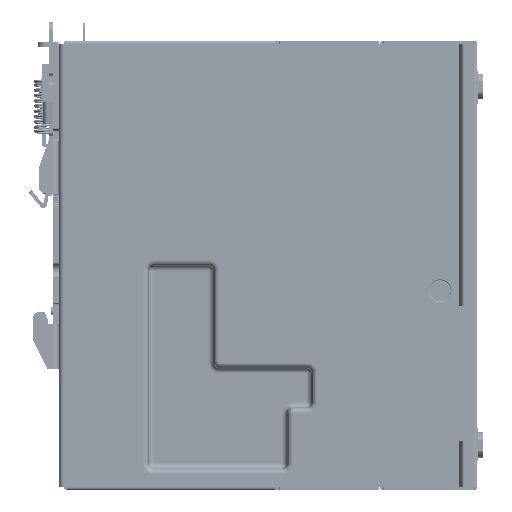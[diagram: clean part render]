
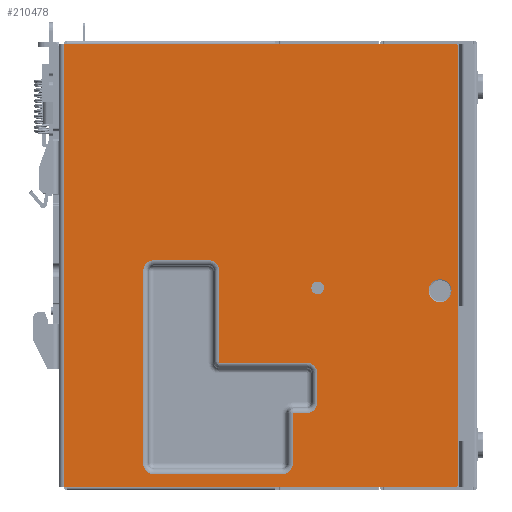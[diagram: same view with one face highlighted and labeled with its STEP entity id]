
A CAD part, front view. The second image highlights one B-rep face of the part: STEP entity #210478.
In plain terms, the highlighted planar face has unit normal (0, -1, 0).
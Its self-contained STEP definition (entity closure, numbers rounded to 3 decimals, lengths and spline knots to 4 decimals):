
#41224=DIRECTION('',(0.,0.,-1.));
#41225=VECTOR('',#41224,4.8031);
#41226=CARTESIAN_POINT('',(0.,0.,0.));
#41227=LINE('',#41226,#41225);
#41613=DIRECTION('',(1.,0.,0.));
#41614=VECTOR('',#41613,4.2323);
#41615=CARTESIAN_POINT('',(0.,0.,0.));
#41616=LINE('',#41615,#41614);
#41617=CARTESIAN_POINT('',(4.2323,0.,-0.0394));
#41618=DIRECTION('',(0.,1.,0.));
#41619=DIRECTION('',(0.,0.,1.));
#41620=AXIS2_PLACEMENT_3D('',#41617,#41618,#41619);
#41622=CARTESIAN_POINT('',(4.2323,0.,-4.7638));
#41623=DIRECTION('',(0.,1.,0.));
#41624=DIRECTION('',(1.,0.,0.));
#41625=AXIS2_PLACEMENT_3D('',#41622,#41623,#41624);
#41627=DIRECTION('',(-1.,0.,0.));
#41628=VECTOR('',#41627,4.2323);
#41629=CARTESIAN_POINT('',(4.2323,0.,-4.8031));
#41630=LINE('',#41629,#41628);
#41631=CARTESIAN_POINT('',(2.748,0.,-2.6457));
#41632=DIRECTION('',(0.,-1.,0.));
#41633=DIRECTION('',(1.,0.,0.));
#41634=AXIS2_PLACEMENT_3D('',#41631,#41632,#41633);
#41636=CARTESIAN_POINT('',(2.748,0.,-2.6457));
#41637=DIRECTION('',(0.,-1.,0.));
#41638=DIRECTION('',(-1.,0.,0.));
#41639=AXIS2_PLACEMENT_3D('',#41636,#41637,#41638);
#41641=CARTESIAN_POINT('',(2.3618,0.,-4.5469));
#41642=DIRECTION('',(0.,-1.,0.));
#41643=DIRECTION('',(0.,0.,-1.));
#41644=AXIS2_PLACEMENT_3D('',#41641,#41642,#41643);
#41646=CARTESIAN_POINT('',(2.4807,0.,
-4.0043));
#41647=DIRECTION('',(0.,1.,0.));
#41648=DIRECTION('',(-1.,0.,0.));
#41649=AXIS2_PLACEMENT_3D('',#41646,#41647,#41648);
#41651=CARTESIAN_POINT('',(2.6276,0.,-3.8854));
#41652=DIRECTION('',(0.,-1.,0.));
#41653=DIRECTION('',(0.,0.,-1.));
#41654=AXIS2_PLACEMENT_3D('',#41651,#41652,#41653);
#41656=CARTESIAN_POINT('',(2.6276,0.,-3.5713));
#41657=DIRECTION('',(0.,-1.,0.));
#41658=DIRECTION('',(1.,0.,0.));
#41659=AXIS2_PLACEMENT_3D('',#41656,#41657,#41658);
#41661=CARTESIAN_POINT('',(1.6835,0.,-3.4524));
#41662=DIRECTION('',(0.,1.,0.));
#41663=DIRECTION('',(0.,0.,-1.));
#41664=AXIS2_PLACEMENT_3D('',#41661,#41662,#41663);
#41666=CARTESIAN_POINT('',(1.5646,0.,-2.461));
#41667=DIRECTION('',(0.,-1.,0.));
#41668=DIRECTION('',(1.,0.,0.));
#41669=AXIS2_PLACEMENT_3D('',#41666,#41667,#41668);
#41671=CARTESIAN_POINT('',(0.9748,0.,-2.461));
#41672=DIRECTION('',(0.,-1.,0.));
#41673=DIRECTION('',(0.,0.,1.));
#41674=AXIS2_PLACEMENT_3D('',#41671,#41672,#41673);
#41676=CARTESIAN_POINT('',(0.9748,0.,-4.5469));
#41677=DIRECTION('',(0.,-1.,0.));
#41678=DIRECTION('',(-1.,0.,0.));
#41679=AXIS2_PLACEMENT_3D('',#41676,#41677,#41678);
#41681=CARTESIAN_POINT('',(4.0748,0.,-2.6752));
#41682=DIRECTION('',(0.,-1.,0.));
#41683=DIRECTION('',(1.,0.,0.));
#41684=AXIS2_PLACEMENT_3D('',#41681,#41682,#41683);
#41686=CARTESIAN_POINT('',(4.0748,0.,-2.6752));
#41687=DIRECTION('',(0.,-1.,0.));
#41688=DIRECTION('',(-1.,0.,0.));
#41689=AXIS2_PLACEMENT_3D('',#41686,#41687,#41688);
#45787=DIRECTION('',(0.,0.,1.));
#45788=VECTOR('',#45787,4.7244);
#45789=CARTESIAN_POINT('',(4.2717,0.,-4.7638));
#45790=LINE('',#45789,#45788);
#63854=DIRECTION('',(-1.,0.,0.));
#63855=VECTOR('',#63854,1.387);
#63856=CARTESIAN_POINT('',(2.3618,0.,-4.6632));
#63857=LINE('',#63856,#63855);
#63868=DIRECTION('',(0.,0.,1.));
#63869=VECTOR('',#63868,2.0858);
#63870=CARTESIAN_POINT('',(0.8584,0.,-4.5469));
#63871=LINE('',#63870,#63869);
#63882=DIRECTION('',(1.,0.,0.));
#63883=VECTOR('',#63882,0.5898);
#63884=CARTESIAN_POINT('',(0.9748,0.,-2.3447));
#63885=LINE('',#63884,#63883);
#63896=DIRECTION('',(0.,0.,-1.));
#63897=VECTOR('',#63896,0.9913);
#63898=CARTESIAN_POINT('',(1.6809,0.,-2.461));
#63899=LINE('',#63898,#63897);
#63915=DIRECTION('',(1.,0.,0.));
#63916=VECTOR('',#63915,0.9441);
#63917=CARTESIAN_POINT('',(1.6835,0.,-3.4549));
#63918=LINE('',#63917,#63916);
#63929=DIRECTION('',(0.,0.,-1.));
#63930=VECTOR('',#63929,0.3142);
#63931=CARTESIAN_POINT('',(2.7439,0.,-3.5713));
#63932=LINE('',#63931,#63930);
#63943=DIRECTION('',(-1.,0.,0.));
#63944=VECTOR('',#63943,0.1469);
#63945=CARTESIAN_POINT('',(2.6276,0.,-4.0018));
#63946=LINE('',#63945,#63944);
#63962=DIRECTION('',(0.,0.,-1.));
#63963=VECTOR('',#63962,0.5425);
#63964=CARTESIAN_POINT('',(2.4782,0.,
-4.0043));
#63965=LINE('',#63964,#63963);
#129260=CARTESIAN_POINT('',(0.,0.,-4.8031));
#129261=VERTEX_POINT('',#129260);
#129262=CARTESIAN_POINT('',(4.2323,0.,-4.8031));
#129263=VERTEX_POINT('',#129262);
#129276=CARTESIAN_POINT('',(0.,0.,0.));
#129277=VERTEX_POINT('',#129276);
#129278=CARTESIAN_POINT('',(4.2323,0.,0.));
#129279=VERTEX_POINT('',#129278);
#129280=CARTESIAN_POINT('',(4.2717,0.,-0.0394));
#129281=VERTEX_POINT('',#129280);
#129282=CARTESIAN_POINT('',(4.2717,0.,-4.7638));
#129283=VERTEX_POINT('',#129282);
#129284=CARTESIAN_POINT('',(2.3618,0.,-4.6632));
#129285=CARTESIAN_POINT('',(2.4782,0.,-4.5469));
#129286=VERTEX_POINT('',#129284);
#129287=VERTEX_POINT('',#129285);
#129288=CARTESIAN_POINT('',(2.4782,0.,
-4.0043));
#129289=VERTEX_POINT('',#129288);
#129290=CARTESIAN_POINT('',(2.4807,0.,
-4.0018));
#129291=VERTEX_POINT('',#129290);
#129292=CARTESIAN_POINT('',(2.6276,0.,-4.0018));
#129293=VERTEX_POINT('',#129292);
#129294=CARTESIAN_POINT('',(2.7439,0.,-3.8854));
#129295=VERTEX_POINT('',#129294);
#129296=CARTESIAN_POINT('',(2.7439,0.,-3.5713));
#129297=VERTEX_POINT('',#129296);
#129298=CARTESIAN_POINT('',(2.6276,0.,-3.4549));
#129299=VERTEX_POINT('',#129298);
#129300=CARTESIAN_POINT('',(1.6835,0.,-3.4549));
#129301=VERTEX_POINT('',#129300);
#129302=CARTESIAN_POINT('',(1.6809,0.,-3.4524));
#129303=VERTEX_POINT('',#129302);
#129304=CARTESIAN_POINT('',(1.6809,0.,-2.461));
#129305=VERTEX_POINT('',#129304);
#129306=CARTESIAN_POINT('',(1.5646,0.,-2.3447));
#129307=VERTEX_POINT('',#129306);
#129308=CARTESIAN_POINT('',(0.9748,0.,-2.3447));
#129309=VERTEX_POINT('',#129308);
#129310=CARTESIAN_POINT('',(0.8584,0.,-2.461));
#129311=VERTEX_POINT('',#129310);
#129312=CARTESIAN_POINT('',(0.8584,0.,-4.5469));
#129313=VERTEX_POINT('',#129312);
#129314=CARTESIAN_POINT('',(0.9748,0.,-4.6632));
#129315=VERTEX_POINT('',#129314);
#129435=CARTESIAN_POINT('',(4.1988,0.,-2.6752));
#129437=VERTEX_POINT('',#129435);
#129442=CARTESIAN_POINT('',(3.9508,0.,-2.6752));
#129443=VERTEX_POINT('',#129442);
#129466=CARTESIAN_POINT('',(2.8169,0.,-2.6457));
#129467=CARTESIAN_POINT('',(2.6791,0.,-2.6457));
#129468=VERTEX_POINT('',#129466);
#129469=VERTEX_POINT('',#129467);
#210415=CARTESIAN_POINT('',(0.,0.,0.));
#210416=DIRECTION('',(0.,1.,0.));
#210417=DIRECTION('',(1.,0.,0.));
#210418=AXIS2_PLACEMENT_3D('',#210415,#210416,#210417);
#210419=PLANE('',#210418);
#210420=ORIENTED_EDGE('',*,*,#209603,.F.);
#210421=ORIENTED_EDGE('',*,*,#196496,.T.);
#210423=ORIENTED_EDGE('',*,*,#210422,.T.);
#210425=ORIENTED_EDGE('',*,*,#210424,.F.);
#210427=ORIENTED_EDGE('',*,*,#210426,.T.);
#210429=ORIENTED_EDGE('',*,*,#210428,.T.);
#210430=EDGE_LOOP('',(#210420,#210421,#210423,#210425,#210427,#210429));
#210431=FACE_OUTER_BOUND('',#210430,.F.);
#210433=ORIENTED_EDGE('',*,*,#210432,.T.);
#210435=ORIENTED_EDGE('',*,*,#210434,.T.);
#210436=EDGE_LOOP('',(#210433,#210435));
#210437=FACE_BOUND('',#210436,.F.);
#210439=ORIENTED_EDGE('',*,*,#210438,.T.);
#210441=ORIENTED_EDGE('',*,*,#210440,.F.);
#210443=ORIENTED_EDGE('',*,*,#210442,.T.);
#210445=ORIENTED_EDGE('',*,*,#210444,.F.);
#210447=ORIENTED_EDGE('',*,*,#210446,.T.);
#210449=ORIENTED_EDGE('',*,*,#210448,.F.);
#210451=ORIENTED_EDGE('',*,*,#210450,.T.);
#210453=ORIENTED_EDGE('',*,*,#210452,.F.);
#210455=ORIENTED_EDGE('',*,*,#210454,.T.);
#210457=ORIENTED_EDGE('',*,*,#210456,.F.);
#210459=ORIENTED_EDGE('',*,*,#210458,.T.);
#210461=ORIENTED_EDGE('',*,*,#210460,.F.);
#210463=ORIENTED_EDGE('',*,*,#210462,.T.);
#210465=ORIENTED_EDGE('',*,*,#210464,.F.);
#210467=ORIENTED_EDGE('',*,*,#210466,.T.);
#210469=ORIENTED_EDGE('',*,*,#210468,.F.);
#210470=EDGE_LOOP('',(#210439,#210441,#210443,#210445,#210447,#210449,#210451,
#210453,#210455,#210457,#210459,#210461,#210463,#210465,#210467,#210469));
#210471=FACE_BOUND('',#210470,.F.);
#210473=ORIENTED_EDGE('',*,*,#210472,.T.);
#210475=ORIENTED_EDGE('',*,*,#210474,.T.);
#210476=EDGE_LOOP('',(#210473,#210475));
#210477=FACE_BOUND('',#210476,.F.);
#41621=CIRCLE('',#41620,0.0394);
#41626=CIRCLE('',#41625,0.0394);
#41635=CIRCLE('',#41634,0.0689);
#41640=CIRCLE('',#41639,0.0689);
#41645=CIRCLE('',#41644,0.1164);
#41650=CIRCLE('',#41649,0.0025);
#41655=CIRCLE('',#41654,0.1164);
#41660=CIRCLE('',#41659,0.1164);
#41665=CIRCLE('',#41664,0.0025);
#41670=CIRCLE('',#41669,0.1164);
#41675=CIRCLE('',#41674,0.1164);
#41680=CIRCLE('',#41679,0.1164);
#41685=CIRCLE('',#41684,0.124);
#41690=CIRCLE('',#41689,0.124);
#196496=EDGE_CURVE('',#129277,#129279,#41616,.T.);
#209603=EDGE_CURVE('',#129277,#129261,#41227,.T.);
#210422=EDGE_CURVE('',#129279,#129281,#41621,.T.);
#210424=EDGE_CURVE('',#129283,#129281,#45790,.T.);
#210426=EDGE_CURVE('',#129283,#129263,#41626,.T.);
#210428=EDGE_CURVE('',#129263,#129261,#41630,.T.);
#210432=EDGE_CURVE('',#129468,#129469,#41635,.T.);
#210434=EDGE_CURVE('',#129469,#129468,#41640,.T.);
#210438=EDGE_CURVE('',#129286,#129287,#41645,.T.);
#210440=EDGE_CURVE('',#129289,#129287,#63965,.T.);
#210442=EDGE_CURVE('',#129289,#129291,#41650,.T.);
#210444=EDGE_CURVE('',#129293,#129291,#63946,.T.);
#210446=EDGE_CURVE('',#129293,#129295,#41655,.T.);
#210448=EDGE_CURVE('',#129297,#129295,#63932,.T.);
#210450=EDGE_CURVE('',#129297,#129299,#41660,.T.);
#210452=EDGE_CURVE('',#129301,#129299,#63918,.T.);
#210454=EDGE_CURVE('',#129301,#129303,#41665,.T.);
#210456=EDGE_CURVE('',#129305,#129303,#63899,.T.);
#210458=EDGE_CURVE('',#129305,#129307,#41670,.T.);
#210460=EDGE_CURVE('',#129309,#129307,#63885,.T.);
#210462=EDGE_CURVE('',#129309,#129311,#41675,.T.);
#210464=EDGE_CURVE('',#129313,#129311,#63871,.T.);
#210466=EDGE_CURVE('',#129313,#129315,#41680,.T.);
#210468=EDGE_CURVE('',#129286,#129315,#63857,.T.);
#210472=EDGE_CURVE('',#129437,#129443,#41685,.T.);
#210474=EDGE_CURVE('',#129443,#129437,#41690,.T.);
#210478=ADVANCED_FACE('',(#210431,#210437,#210471,#210477),#210419,.F.);
